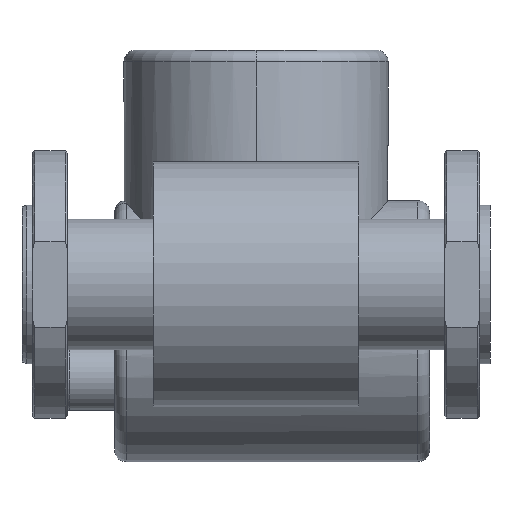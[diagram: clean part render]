
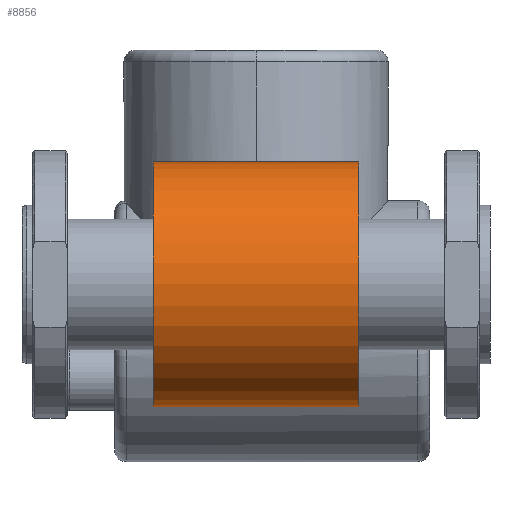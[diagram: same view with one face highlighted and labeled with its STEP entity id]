
A CAD part, front view. The second image highlights one B-rep face of the part: STEP entity #8856.
In plain terms, the highlighted cylindrical face has radius 52.5 mm (diameter 105 mm), a partial arc.
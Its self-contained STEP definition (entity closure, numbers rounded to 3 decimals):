
#484 = VERTEX_POINT ( 'NONE', #2044 ) ;
#718 = CARTESIAN_POINT ( 'NONE',  ( -110.977, 0., 0. ) ) ;
#745 = CIRCLE ( 'NONE', #4323, 52.5 ) ;
#825 = DIRECTION ( 'NONE',  ( -1., 0., 0. ) ) ;
#1052 = AXIS2_PLACEMENT_3D ( 'NONE', #718, #5057, #2790 ) ;
#1198 = VERTEX_POINT ( 'NONE', #6054 ) ;
#1204 = VERTEX_POINT ( 'NONE', #1905 ) ;
#1286 = EDGE_LOOP ( 'NONE', ( #4776, #3917, #5408, #8961 ) ) ;
#1517 = CIRCLE ( 'NONE', #4671, 52.5 ) ;
#1590 = CARTESIAN_POINT ( 'NONE',  ( 44., 0., 0. ) ) ;
#1864 = LINE ( 'NONE', #5459, #8270 ) ;
#1905 = CARTESIAN_POINT ( 'NONE',  ( 44., 0., 52.5 ) ) ;
#1934 = DIRECTION ( 'NONE',  ( 0., 0., 1. ) ) ;
#1940 = DIRECTION ( 'NONE',  ( -1., 0., 0. ) ) ;
#2044 = CARTESIAN_POINT ( 'NONE',  ( -44., 0., -52.5 ) ) ;
#2449 = CARTESIAN_POINT ( 'NONE',  ( -110.977, 0., 52.5 ) ) ;
#2790 = DIRECTION ( 'NONE',  ( 0., 0., 1. ) ) ;
#3777 = VERTEX_POINT ( 'NONE', #3914 ) ;
#3914 = CARTESIAN_POINT ( 'NONE',  ( -44., 0., 52.5 ) ) ;
#3917 = ORIENTED_EDGE ( 'NONE', *, *, #6688, .T. ) ;
#4323 = AXIS2_PLACEMENT_3D ( 'NONE', #1590, #825, #6541 ) ;
#4671 = AXIS2_PLACEMENT_3D ( 'NONE', #6231, #7682, #1934 ) ;
#4709 = VECTOR ( 'NONE', #1940, 1000. ) ;
#4776 = ORIENTED_EDGE ( 'NONE', *, *, #5917, .F. ) ;
#5057 = DIRECTION ( 'NONE',  ( -1., 0., 0. ) ) ;
#5408 = ORIENTED_EDGE ( 'NONE', *, *, #8756, .T. ) ;
#5459 = CARTESIAN_POINT ( 'NONE',  ( -110.977, 0., -52.5 ) ) ;
#5811 = FACE_OUTER_BOUND ( 'NONE', #1286, .T. ) ;
#5917 = EDGE_CURVE ( 'NONE', #1198, #484, #1864, .T. ) ;
#6054 = CARTESIAN_POINT ( 'NONE',  ( 44., 0., -52.5 ) ) ;
#6231 = CARTESIAN_POINT ( 'NONE',  ( -44., 0., 0. ) ) ;
#6541 = DIRECTION ( 'NONE',  ( 0., 0., 1. ) ) ;
#6688 = EDGE_CURVE ( 'NONE', #1198, #1204, #745, .T. ) ;
#6798 = LINE ( 'NONE', #2449, #4709 ) ;
#6974 = EDGE_CURVE ( 'NONE', #484, #3777, #1517, .T. ) ;
#7682 = DIRECTION ( 'NONE',  ( -1., 0., 0. ) ) ;
#7905 = CYLINDRICAL_SURFACE ( 'NONE', #1052, 52.5 ) ;
#8270 = VECTOR ( 'NONE', #8994, 1000. ) ;
#8756 = EDGE_CURVE ( 'NONE', #1204, #3777, #6798, .T. ) ;
#8856 = ADVANCED_FACE ( 'NONE', ( #5811 ), #7905, .T. ) ;
#8961 = ORIENTED_EDGE ( 'NONE', *, *, #6974, .F. ) ;
#8994 = DIRECTION ( 'NONE',  ( -1., 0., 0. ) ) ;
